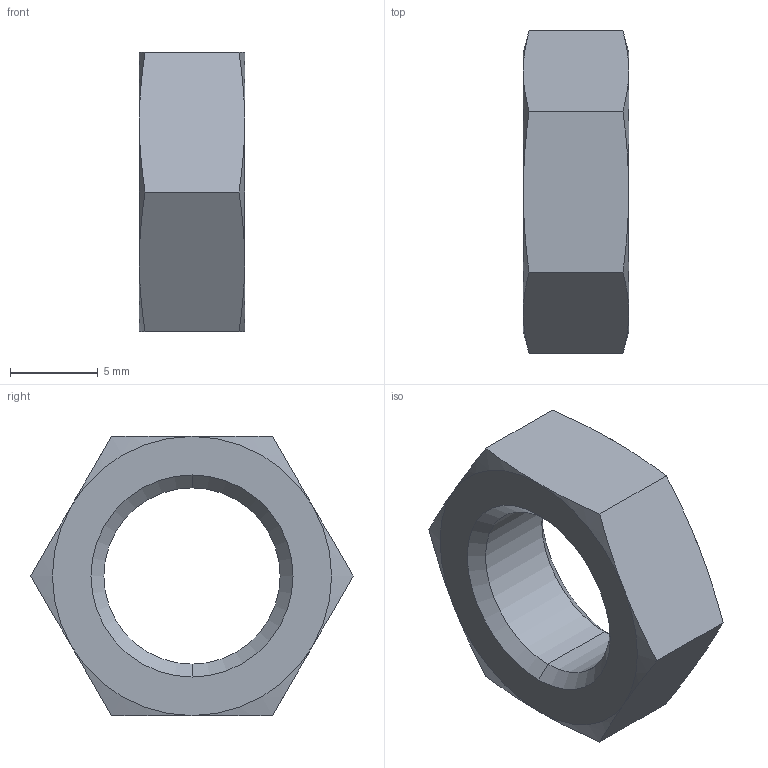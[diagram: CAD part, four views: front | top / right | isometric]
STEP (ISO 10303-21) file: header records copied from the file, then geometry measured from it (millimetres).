
FILE_DESCRIPTION (( 'STEP AP203' ), '1' );
FILE_NAME ('DNN04 SS.STEP', '2009-09-08T08:22:46', ( ' ' ), ( '' ), 'SwSTEP 2.0', 'SolidWorks 2008', '' );
FILE_SCHEMA (( 'CONFIG_CONTROL_DESIGN' ));
Length unit declared in the file: millimetre
Products named in the file (1): DNN04 SS
Bounding box: 6 x 18.34 x 15.88 mm (x, y, z)
Volume: 814.1 mm3; surface area: 761.1 mm2
Topology: 1 solids, 1 shells, 26 faces, 56 edges, 32 vertices
Faces by surface type: cone 16, plane 8, cylinder 2
Entity records: 805 total; most frequent: CARTESIAN_POINT 195, ORIENTED_EDGE 112, DIRECTION 106, EDGE_CURVE 56, AXIS2_PLACEMENT_3D 47, VERTEX_POINT 32, EDGE_LOOP 28, ADVANCED_FACE 26
